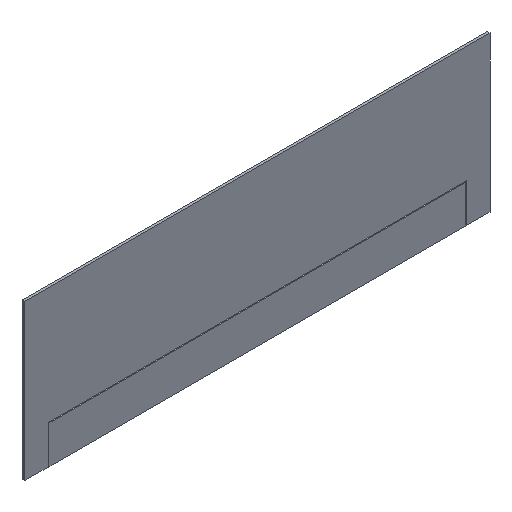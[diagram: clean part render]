
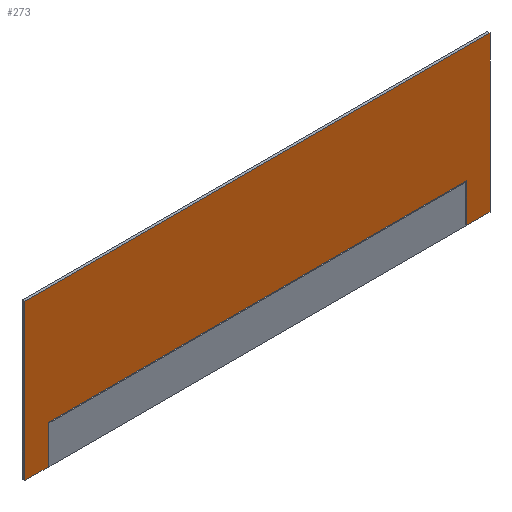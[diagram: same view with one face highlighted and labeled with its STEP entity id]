
A CAD part, isometric view. The second image highlights one B-rep face of the part: STEP entity #273.
In plain terms, the highlighted planar face has unit normal (0, -1, 0).
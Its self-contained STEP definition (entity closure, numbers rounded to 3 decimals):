
#21=FACE_OUTER_BOUND('',#37,.T.);
#37=EDGE_LOOP('',(#201,#202,#203,#204,#205,#206,#207,#208));
#49=LINE('',#390,#85);
#53=LINE('',#398,#89);
#56=LINE('',#404,#92);
#64=LINE('',#420,#100);
#65=LINE('',#422,#101);
#66=LINE('',#424,#102);
#67=LINE('',#426,#103);
#68=LINE('',#427,#104);
#85=VECTOR('',#320,10.);
#89=VECTOR('',#326,10.);
#92=VECTOR('',#331,10.);
#100=VECTOR('',#343,10.);
#101=VECTOR('',#344,10.);
#102=VECTOR('',#345,10.);
#103=VECTOR('',#346,10.);
#104=VECTOR('',#347,10.);
#121=VERTEX_POINT('',#388);
#122=VERTEX_POINT('',#389);
#125=VERTEX_POINT('',#397);
#127=VERTEX_POINT('',#403);
#133=VERTEX_POINT('',#419);
#134=VERTEX_POINT('',#421);
#135=VERTEX_POINT('',#423);
#136=VERTEX_POINT('',#425);
#145=EDGE_CURVE('',#121,#122,#49,.T.);
#149=EDGE_CURVE('',#122,#125,#53,.T.);
#152=EDGE_CURVE('',#125,#127,#56,.T.);
#160=EDGE_CURVE('',#127,#133,#64,.T.);
#161=EDGE_CURVE('',#133,#134,#65,.T.);
#162=EDGE_CURVE('',#135,#134,#66,.T.);
#163=EDGE_CURVE('',#135,#136,#67,.T.);
#164=EDGE_CURVE('',#136,#121,#68,.T.);
#201=ORIENTED_EDGE('',*,*,#145,.T.);
#202=ORIENTED_EDGE('',*,*,#149,.T.);
#203=ORIENTED_EDGE('',*,*,#152,.T.);
#204=ORIENTED_EDGE('',*,*,#160,.T.);
#205=ORIENTED_EDGE('',*,*,#161,.T.);
#206=ORIENTED_EDGE('',*,*,#162,.F.);
#207=ORIENTED_EDGE('',*,*,#163,.T.);
#208=ORIENTED_EDGE('',*,*,#164,.T.);
#257=PLANE('',#304);
#273=ADVANCED_FACE('',(#21),#257,.F.);
#304=AXIS2_PLACEMENT_3D('',#418,#341,#342);
#320=DIRECTION('',(0.,0.,1.));
#326=DIRECTION('',(1.,0.,0.));
#331=DIRECTION('',(0.,0.,-1.));
#341=DIRECTION('center_axis',(0.,1.,0.));
#342=DIRECTION('ref_axis',(1.,0.,0.));
#343=DIRECTION('',(1.,0.,0.));
#344=DIRECTION('',(0.,0.,1.));
#345=DIRECTION('',(1.,0.,0.));
#346=DIRECTION('',(0.,0.,-1.));
#347=DIRECTION('',(1.,0.,0.));
#388=CARTESIAN_POINT('',(-224.1,0.,-166.));
#389=CARTESIAN_POINT('',(-224.1,0.,-124.5));
#390=CARTESIAN_POINT('',(-224.1,0.,-103.75));
#397=CARTESIAN_POINT('',(224.1,0.,-124.5));
#398=CARTESIAN_POINT('',(112.05,0.,-124.5));
#403=CARTESIAN_POINT('',(224.1,0.,-166.));
#404=CARTESIAN_POINT('',(224.1,0.,-124.5));
#418=CARTESIAN_POINT('Origin',(0.,0.,-83.));
#419=CARTESIAN_POINT('',(249.,0.,-166.));
#420=CARTESIAN_POINT('',(-249.,0.,-166.));
#421=CARTESIAN_POINT('',(249.,0.,0.));
#422=CARTESIAN_POINT('',(249.,0.,-166.));
#423=CARTESIAN_POINT('',(-249.,0.,0.));
#424=CARTESIAN_POINT('',(0.,0.,0.));
#425=CARTESIAN_POINT('',(-249.,0.,-166.));
#426=CARTESIAN_POINT('',(-249.,0.,0.));
#427=CARTESIAN_POINT('',(-249.,0.,-166.));
